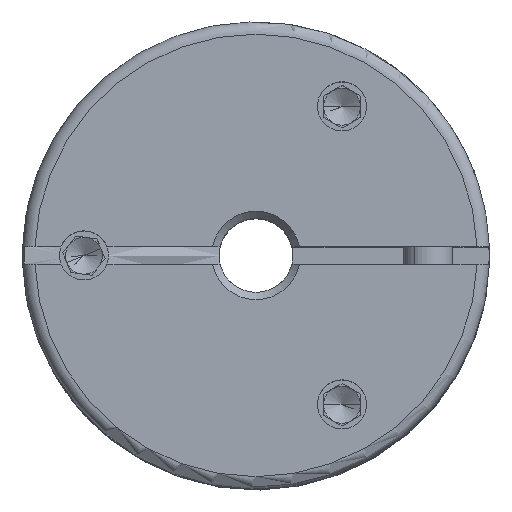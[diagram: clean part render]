
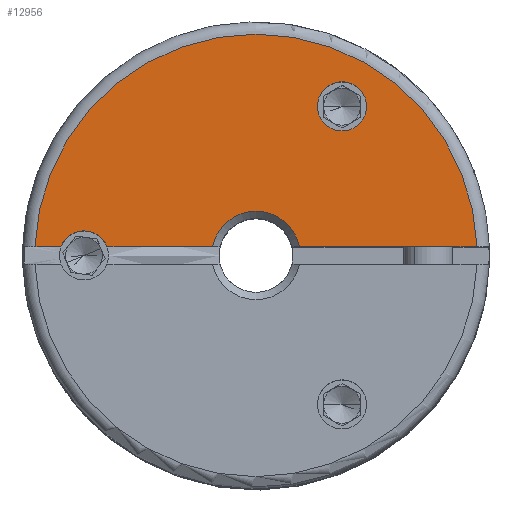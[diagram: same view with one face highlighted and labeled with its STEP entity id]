
A CAD part, top view. The second image highlights one B-rep face of the part: STEP entity #12956.
In plain terms, the highlighted planar face has unit normal (0, 0, 1).
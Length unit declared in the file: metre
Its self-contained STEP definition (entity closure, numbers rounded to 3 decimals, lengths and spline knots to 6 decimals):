
#190 = CARTESIAN_POINT ( 'NONE',  ( 0.0035, 0.006062, 0.0133 ) ) ;
#399 = ORIENTED_EDGE ( 'NONE', *, *, #26373, .F. ) ;
#872 = CARTESIAN_POINT ( 'NONE',  ( -0.007937, 0.00035, 0.0133 ) ) ;
#1139 = VERTEX_POINT ( 'NONE', #872 ) ;
#2081 = AXIS2_PLACEMENT_3D ( 'NONE', #12645, #10408, #26611 ) ;
#2133 = EDGE_CURVE ( 'NONE', #29026, #16454, #8521, .T. ) ;
#2754 = CIRCLE ( 'NONE', #25509, 0.001 ) ;
#3672 = DIRECTION ( 'NONE',  ( 1., 0., 0. ) ) ;
#4424 = ORIENTED_EDGE ( 'NONE', *, *, #2133, .F. ) ;
#4766 = EDGE_LOOP ( 'NONE', ( #4424, #16998, #399, #27477, #8977, #11567 ) ) ;
#4983 = CARTESIAN_POINT ( 'NONE',  ( -0.007, 0., 0.0133 ) ) ;
#5285 = EDGE_CURVE ( 'NONE', #10187, #11346, #20270, .T. ) ;
#5592 = FACE_BOUND ( 'NONE', #27706, .T. ) ;
#5857 = EDGE_CURVE ( 'NONE', #10187, #16454, #20240, .T. ) ;
#6372 = CARTESIAN_POINT ( 'NONE',  ( 0.001766, 0.00035, 0.0133 ) ) ;
#7136 = DIRECTION ( 'NONE',  ( 0., 0., 1. ) ) ;
#8446 = DIRECTION ( 'NONE',  ( -1., 0., 0. ) ) ;
#8521 = LINE ( 'NONE', #9685, #20825 ) ;
#8826 = FACE_OUTER_BOUND ( 'NONE', #4766, .T. ) ;
#8977 = ORIENTED_EDGE ( 'NONE', *, *, #5285, .F. ) ;
#9685 = CARTESIAN_POINT ( 'NONE',  ( 0., 0.00035, 0.0133 ) ) ;
#10135 = CARTESIAN_POINT ( 'NONE',  ( 0.0035, 0.006062, 0.0133 ) ) ;
#10187 = VERTEX_POINT ( 'NONE', #12866 ) ;
#10331 = DIRECTION ( 'NONE',  ( 0., 0., 1. ) ) ;
#10408 = DIRECTION ( 'NONE',  ( 0., 0., -1. ) ) ;
#10524 = CARTESIAN_POINT ( 'NONE',  ( 0., 0., 0.0133 ) ) ;
#11346 = VERTEX_POINT ( 'NONE', #25173 ) ;
#11567 = ORIENTED_EDGE ( 'NONE', *, *, #5857, .T. ) ;
#11583 = DIRECTION ( 'NONE',  ( 1., 0., 0. ) ) ;
#12645 = CARTESIAN_POINT ( 'NONE',  ( 0., 0., 0.0133 ) ) ;
#12866 = CARTESIAN_POINT ( 'NONE',  ( -0.001766, 0.00035, 0.0133 ) ) ;
#12956 = ADVANCED_FACE ( 'NONE', ( #8826, #5592 ), #26824, .T. ) ;
#13055 = AXIS2_PLACEMENT_3D ( 'NONE', #28815, #19912, #21920 ) ;
#13231 = CARTESIAN_POINT ( 'NONE',  ( 0., 0.00035, 0.0133 ) ) ;
#14607 = CIRCLE ( 'NONE', #13055, 0.009 ) ;
#15335 = CARTESIAN_POINT ( 'NONE',  ( 0., 0.00035, 0.0133 ) ) ;
#16337 = AXIS2_PLACEMENT_3D ( 'NONE', #10135, #10331, #19759 ) ;
#16421 = CARTESIAN_POINT ( 'NONE',  ( -0.008993, 0.00035, 0.0133 ) ) ;
#16454 = VERTEX_POINT ( 'NONE', #6372 ) ;
#16625 = CIRCLE ( 'NONE', #16337, 0.001 ) ;
#16977 = DIRECTION ( 'NONE',  ( -1., 0., 0. ) ) ;
#16998 = ORIENTED_EDGE ( 'NONE', *, *, #20741, .T. ) ;
#17501 = ORIENTED_EDGE ( 'NONE', *, *, #22355, .F. ) ;
#17526 = DIRECTION ( 'NONE',  ( 0., 0., 1. ) ) ;
#18202 = AXIS2_PLACEMENT_3D ( 'NONE', #4983, #21157, #23467 ) ;
#18455 = VECTOR ( 'NONE', #8446, 1. ) ;
#19171 = CIRCLE ( 'NONE', #18202, 0.001 ) ;
#19553 = VECTOR ( 'NONE', #24651, 1. ) ;
#19759 = DIRECTION ( 'NONE',  ( 1., 0., 0. ) ) ;
#19912 = DIRECTION ( 'NONE',  ( 0., 0., 1. ) ) ;
#20240 = CIRCLE ( 'NONE', #2081, 0.0018 ) ;
#20270 = LINE ( 'NONE', #13231, #19553 ) ;
#20397 = VERTEX_POINT ( 'NONE', #20870 ) ;
#20741 = EDGE_CURVE ( 'NONE', #29026, #28927, #14607, .T. ) ;
#20825 = VECTOR ( 'NONE', #16977, 1. ) ;
#20870 = CARTESIAN_POINT ( 'NONE',  ( 0.0045, 0.006062, 0.0133 ) ) ;
#21157 = DIRECTION ( 'NONE',  ( 0., 0., 1. ) ) ;
#21920 = DIRECTION ( 'NONE',  ( 1., 0., 0. ) ) ;
#22355 = EDGE_CURVE ( 'NONE', #26501, #20397, #2754, .T. ) ;
#22478 = CARTESIAN_POINT ( 'NONE',  ( 0.0025, 0.006062, 0.0133 ) ) ;
#22946 = EDGE_CURVE ( 'NONE', #11346, #1139, #19171, .T. ) ;
#23467 = DIRECTION ( 'NONE',  ( 1., 0., 0. ) ) ;
#23623 = EDGE_CURVE ( 'NONE', #20397, #26501, #16625, .T. ) ;
#23980 = CARTESIAN_POINT ( 'NONE',  ( 0.008993, 0.00035, 0.0133 ) ) ;
#24605 = LINE ( 'NONE', #15335, #18455 ) ;
#24651 = DIRECTION ( 'NONE',  ( -1., 0., 0. ) ) ;
#25145 = ORIENTED_EDGE ( 'NONE', *, *, #23623, .F. ) ;
#25173 = CARTESIAN_POINT ( 'NONE',  ( -0.006063, 0.00035, 0.0133 ) ) ;
#25509 = AXIS2_PLACEMENT_3D ( 'NONE', #190, #7136, #11583 ) ;
#26373 = EDGE_CURVE ( 'NONE', #1139, #28927, #24605, .T. ) ;
#26501 = VERTEX_POINT ( 'NONE', #22478 ) ;
#26611 = DIRECTION ( 'NONE',  ( 1., 0., 0. ) ) ;
#26824 = PLANE ( 'NONE',  #28514 ) ;
#27477 = ORIENTED_EDGE ( 'NONE', *, *, #22946, .F. ) ;
#27706 = EDGE_LOOP ( 'NONE', ( #25145, #17501 ) ) ;
#28514 = AXIS2_PLACEMENT_3D ( 'NONE', #10524, #17526, #3672 ) ;
#28815 = CARTESIAN_POINT ( 'NONE',  ( 0., 0., 0.0133 ) ) ;
#28927 = VERTEX_POINT ( 'NONE', #16421 ) ;
#29026 = VERTEX_POINT ( 'NONE', #23980 ) ;
